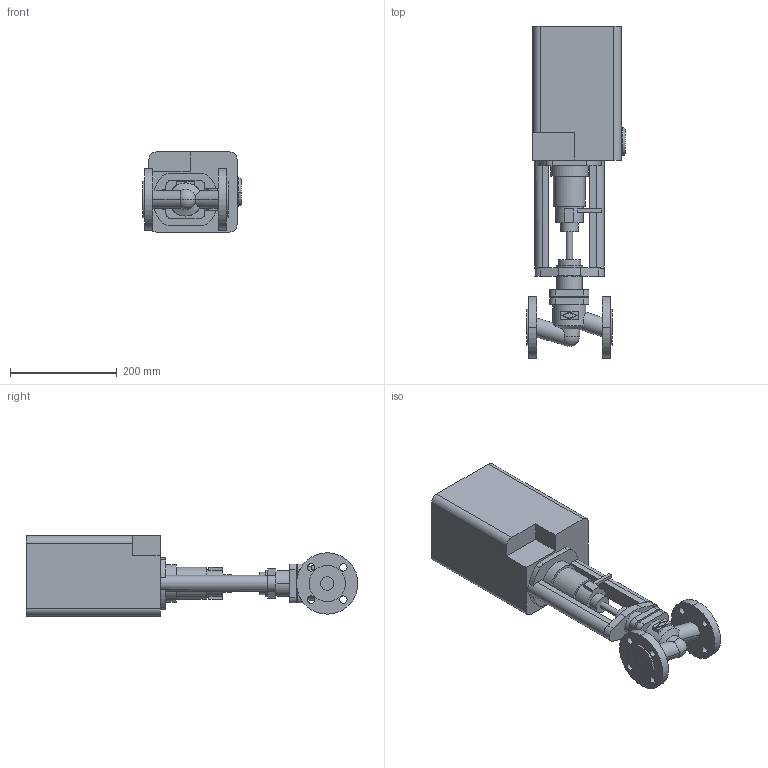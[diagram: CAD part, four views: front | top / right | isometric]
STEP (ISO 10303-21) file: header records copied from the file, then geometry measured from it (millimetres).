
FILE_DESCRIPTION(('OneSpaceDesigner STEP Export'),'2;1');
FILE_NAME('c000001167.stp','2005-02-16T12:02:51',(''),(''),'OneSpace Designer STEP processor (Jan. 2003) for AP203(Solid Model)','OneSpace Designer 12.01D 09-Jul-2004 (C) CoCreate Software GmbH','');
FILE_SCHEMA(('CONFIG_CONTROL_DESIGN'));
Length unit declared in the file: millimetre
Products named in the file (2): 1; 2
Bounding box: 184.6 x 621.5 x 150 mm (x, y, z)
Volume: 7591783.1 mm3; surface area: 385829.4 mm2
Topology: 2 solids, 2 shells, 174 faces, 438 edges, 289 vertices
Faces by surface type: plane 86, cylinder 82, cone 2, sphere 2, torus 2
Entity records: 5197 total; most frequent: CARTESIAN_POINT 1011, ORIENTED_EDGE 872, DIRECTION 778, EDGE_CURVE 436, VERTEX_POINT 289, AXIS2_PLACEMENT_3D 269, VECTOR 240, LINE 240
